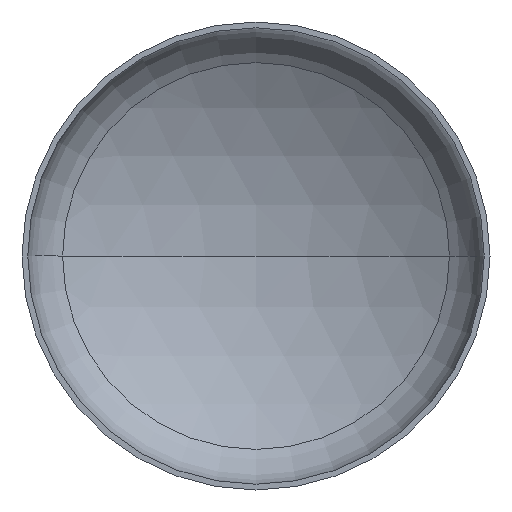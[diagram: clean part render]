
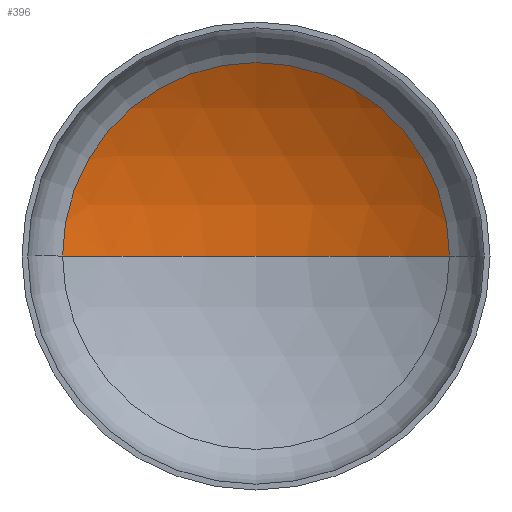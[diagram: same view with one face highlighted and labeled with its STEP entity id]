
A CAD part, front view. The second image highlights one B-rep face of the part: STEP entity #396.
In plain terms, the highlighted spherical face has radius 5200 mm.
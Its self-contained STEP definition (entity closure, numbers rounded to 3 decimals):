
#7 = ORIENTED_EDGE ( 'NONE', *, *, #183, .T. ) ;
#8 = DIRECTION ( 'NONE',  ( 1., 0., 0. ) ) ;
#11 = SPHERICAL_SURFACE ( 'NONE', #101, 5200. ) ;
#19 = CARTESIAN_POINT ( 'NONE',  ( 2686.667, 976.187, 0. ) ) ;
#48 = ORIENTED_EDGE ( 'NONE', *, *, #184, .T. ) ;
#54 = DIRECTION ( 'NONE',  ( 1., 0., 0. ) ) ;
#66 = VERTEX_POINT ( 'NONE', #231 ) ;
#76 = DIRECTION ( 'NONE',  ( -1., 0., 0. ) ) ;
#86 = AXIS2_PLACEMENT_3D ( 'NONE', #388, #222, #8 ) ;
#89 = AXIS2_PLACEMENT_3D ( 'NONE', #304, #129, #328 ) ;
#92 = AXIS2_PLACEMENT_3D ( 'NONE', #102, #98, #54 ) ;
#94 = CIRCLE ( 'NONE', #89, 5200. ) ;
#98 = DIRECTION ( 'NONE',  ( 0., -1., 0. ) ) ;
#101 = AXIS2_PLACEMENT_3D ( 'NONE', #370, #342, #76 ) ;
#102 = CARTESIAN_POINT ( 'NONE',  ( 0., 976.187, 0. ) ) ;
#129 = DIRECTION ( 'NONE',  ( 0., 0., -1. ) ) ;
#152 = VERTEX_POINT ( 'NONE', #272 ) ;
#183 = EDGE_CURVE ( 'NONE', #293, #152, #193, .T. ) ;
#184 = EDGE_CURVE ( 'NONE', #66, #293, #94, .T. ) ;
#187 = EDGE_CURVE ( 'NONE', #66, #152, #397, .T. ) ;
#188 = ORIENTED_EDGE ( 'NONE', *, *, #187, .F. ) ;
#193 = CIRCLE ( 'NONE', #92, 2686.667 ) ;
#222 = DIRECTION ( 'NONE',  ( 0., 0., 1. ) ) ;
#231 = CARTESIAN_POINT ( 'NONE',  ( 0., 1724.016, 0. ) ) ;
#272 = CARTESIAN_POINT ( 'NONE',  ( -2686.667, 976.187, 0. ) ) ;
#293 = VERTEX_POINT ( 'NONE', #19 ) ;
#304 = CARTESIAN_POINT ( 'NONE',  ( 0., -3475.984, 0. ) ) ;
#328 = DIRECTION ( 'NONE',  ( -1., 0., 0. ) ) ;
#342 = DIRECTION ( 'NONE',  ( 0., 0., -1. ) ) ;
#344 = FACE_OUTER_BOUND ( 'NONE', #373, .T. ) ;
#370 = CARTESIAN_POINT ( 'NONE',  ( 0., -3475.984, 0. ) ) ;
#373 = EDGE_LOOP ( 'NONE', ( #188, #48, #7 ) ) ;
#388 = CARTESIAN_POINT ( 'NONE',  ( 0., -3475.984, 0. ) ) ;
#396 = ADVANCED_FACE ( 'NONE', ( #344 ), #11, .F. ) ;
#397 = CIRCLE ( 'NONE', #86, 5200. ) ;
